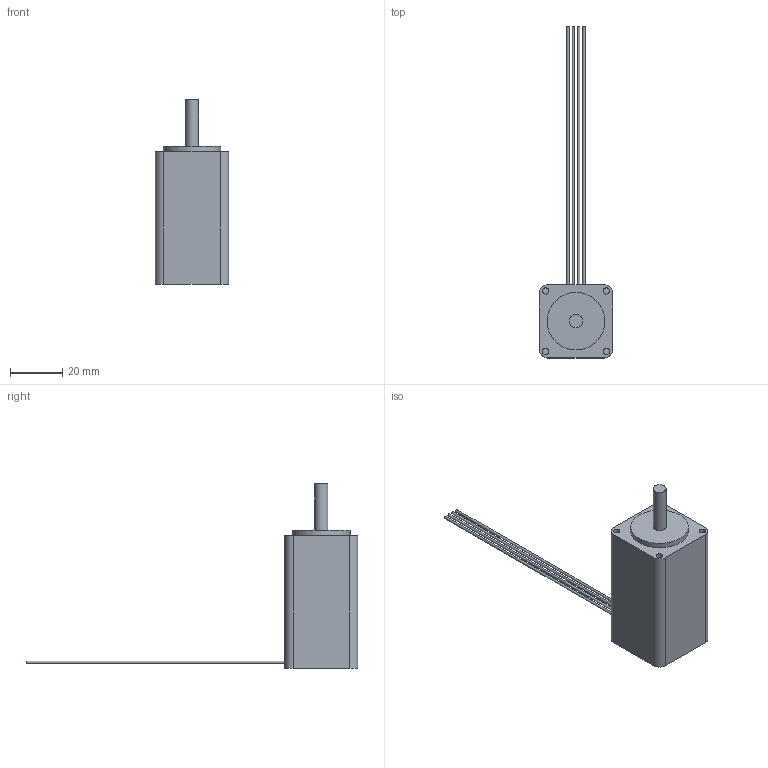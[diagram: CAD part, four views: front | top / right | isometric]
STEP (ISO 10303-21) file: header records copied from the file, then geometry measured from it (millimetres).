
FILE_DESCRIPTION((''),'2;1');
FILE_NAME('C:\Documents and Settings\rbadgerow\Desktop\updated web dwgs\ipt\211\211-20 sngl.stp','2008-10-26T10:22:40',('rbadgerow'),(''),'Autodesk Inventor 2009','Autodesk Inventor 2009','');
FILE_SCHEMA(('AUTOMOTIVE_DESIGN { 1 0 10303 214 1 1 1 1 }'));
Length unit declared in the file: inch
Products named in the file (1): 211-20 sngl
Bounding box: 27.94 x 126.66 x 70.36 mm (x, y, z)
Volume: 39452.8 mm3; surface area: 10090.3 mm2
Topology: 1 solids, 1 shells, 30 faces, 57 edges, 39 vertices
Faces by surface type: plane 16, cylinder 14
Full cylindrical faces by diameter (mm): 0.965 x4, 2.489 x4, 4.999 x1, 21.996 x1
Entity records: 808 total; most frequent: DIRECTION 134, CARTESIAN_POINT 111, ORIENTED_EDGE 88, AXIS2_PLACEMENT_3D 59, EDGE_LOOP 50, EDGE_CURVE 44, VERTEX_POINT 36, FACE_OUTER_BOUND 30
